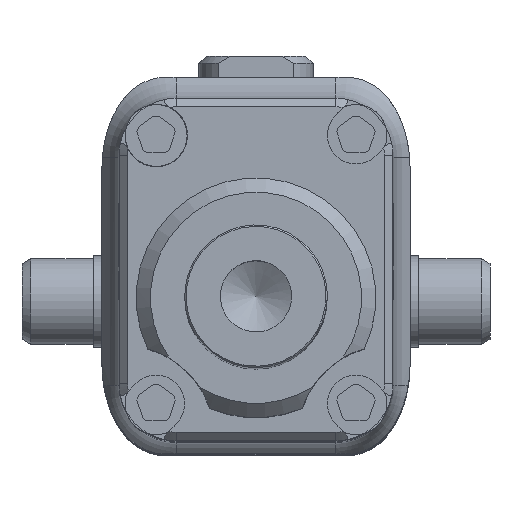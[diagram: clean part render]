
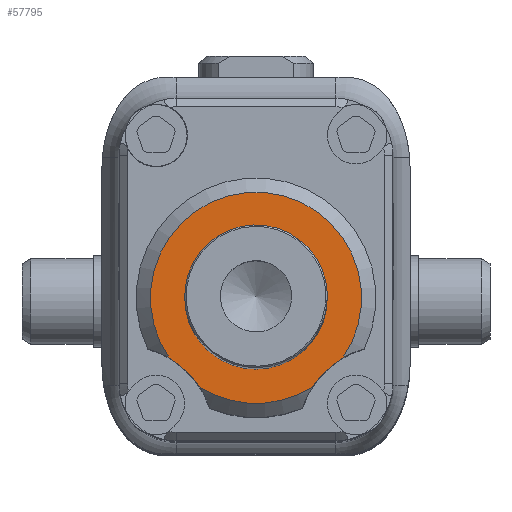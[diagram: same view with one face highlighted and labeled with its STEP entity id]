
A CAD part, top view. The second image highlights one B-rep face of the part: STEP entity #57795.
In plain terms, the highlighted planar face has unit normal (0, 0, 1).
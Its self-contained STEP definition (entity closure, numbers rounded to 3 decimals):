
#486 = CARTESIAN_POINT ( 'NONE',  ( 10.098, -2.998, 47.296 ) ) ;
#2094 = DIRECTION ( 'NONE',  ( 0., 0., 1. ) ) ;
#2209 = CIRCLE ( 'NONE', #9905, 3.7 ) ;
#2752 = DIRECTION ( 'NONE',  ( 0., 0., 1. ) ) ;
#2878 = CARTESIAN_POINT ( 'NONE',  ( 15.636, -0.885, 47.296 ) ) ;
#3892 = FACE_OUTER_BOUND ( 'NONE', #24902, .T. ) ;
#5049 = EDGE_CURVE ( 'NONE', #30864, #30864, #24939, .T. ) ;
#6874 = CARTESIAN_POINT ( 'NONE',  ( 8.469, -5.752, 47.296 ) ) ;
#7052 = CIRCLE ( 'NONE', #27177, 3.2 ) ;
#8056 = CIRCLE ( 'NONE', #55189, 3.7 ) ;
#9905 = AXIS2_PLACEMENT_3D ( 'NONE', #48172, #2094, #33702 ) ;
#10746 = VERTEX_POINT ( 'NONE', #47875 ) ;
#12518 = ORIENTED_EDGE ( 'NONE', *, *, #57606, .T. ) ;
#12869 = AXIS2_PLACEMENT_3D ( 'NONE', #13814, #32190, #45750 ) ;
#13613 = DIRECTION ( 'NONE',  ( 1., 0., 0. ) ) ;
#13814 = CARTESIAN_POINT ( 'NONE',  ( 13.136, -0.885, 47.296 ) ) ;
#16978 = CARTESIAN_POINT ( 'NONE',  ( 11.153, -4.009, 47.296 ) ) ;
#17483 = VERTEX_POINT ( 'NONE', #16978 ) ;
#17556 = DIRECTION ( 'NONE',  ( 0., 0., 1. ) ) ;
#17927 = EDGE_CURVE ( 'NONE', #17483, #10746, #2209, .T. ) ;
#22256 = PLANE ( 'NONE',  #12869 ) ;
#24902 = EDGE_LOOP ( 'NONE', ( #31142, #33980, #55593, #12518 ) ) ;
#24939 = CIRCLE ( 'NONE', #47085, 2.5 ) ;
#25237 = DIRECTION ( 'NONE',  ( 0., 0., -1. ) ) ;
#27177 = AXIS2_PLACEMENT_3D ( 'NONE', #45846, #17556, #13613 ) ;
#27839 = EDGE_LOOP ( 'NONE', ( #59109 ) ) ;
#30864 = VERTEX_POINT ( 'NONE', #2878 ) ;
#31142 = ORIENTED_EDGE ( 'NONE', *, *, #40459, .T. ) ;
#32190 = DIRECTION ( 'NONE',  ( 0., 0., 1. ) ) ;
#33702 = DIRECTION ( 'NONE',  ( 1., 0., 0. ) ) ;
#33980 = ORIENTED_EDGE ( 'NONE', *, *, #17927, .T. ) ;
#37204 = DIRECTION ( 'NONE',  ( 1., 0., 0. ) ) ;
#40459 = EDGE_CURVE ( 'NONE', #57686, #17483, #41539, .T. ) ;
#40918 = FACE_BOUND ( 'NONE', #27839, .T. ) ;
#41166 = CARTESIAN_POINT ( 'NONE',  ( 13.136, -0.885, 47.296 ) ) ;
#41539 = CIRCLE ( 'NONE', #57982, 3.2 ) ;
#41904 = CARTESIAN_POINT ( 'NONE',  ( 16.174, -2.998, 47.296 ) ) ;
#42293 = VERTEX_POINT ( 'NONE', #41904 ) ;
#43613 = DIRECTION ( 'NONE',  ( 1., 0., 0. ) ) ;
#45707 = DIRECTION ( 'NONE',  ( 1., 0., 0. ) ) ;
#45750 = DIRECTION ( 'NONE',  ( 1., 0., 0. ) ) ;
#45846 = CARTESIAN_POINT ( 'NONE',  ( 17.803, -5.752, 47.296 ) ) ;
#46264 = DIRECTION ( 'NONE',  ( 0., 0., 1. ) ) ;
#47085 = AXIS2_PLACEMENT_3D ( 'NONE', #41166, #2752, #45707 ) ;
#47875 = CARTESIAN_POINT ( 'NONE',  ( 15.119, -4.009, 47.296 ) ) ;
#48172 = CARTESIAN_POINT ( 'NONE',  ( 13.136, -0.885, 47.296 ) ) ;
#50506 = CARTESIAN_POINT ( 'NONE',  ( 13.136, -0.885, 47.296 ) ) ;
#52430 = EDGE_CURVE ( 'NONE', #42293, #10746, #7052, .T. ) ;
#55189 = AXIS2_PLACEMENT_3D ( 'NONE', #50506, #46264, #37204 ) ;
#55593 = ORIENTED_EDGE ( 'NONE', *, *, #52430, .F. ) ;
#57606 = EDGE_CURVE ( 'NONE', #42293, #57686, #8056, .T. ) ;
#57686 = VERTEX_POINT ( 'NONE', #486 ) ;
#57795 = ADVANCED_FACE ( 'NONE', ( #3892, #40918 ), #22256, .T. ) ;
#57982 = AXIS2_PLACEMENT_3D ( 'NONE', #6874, #25237, #43613 ) ;
#59109 = ORIENTED_EDGE ( 'NONE', *, *, #5049, .F. ) ;
